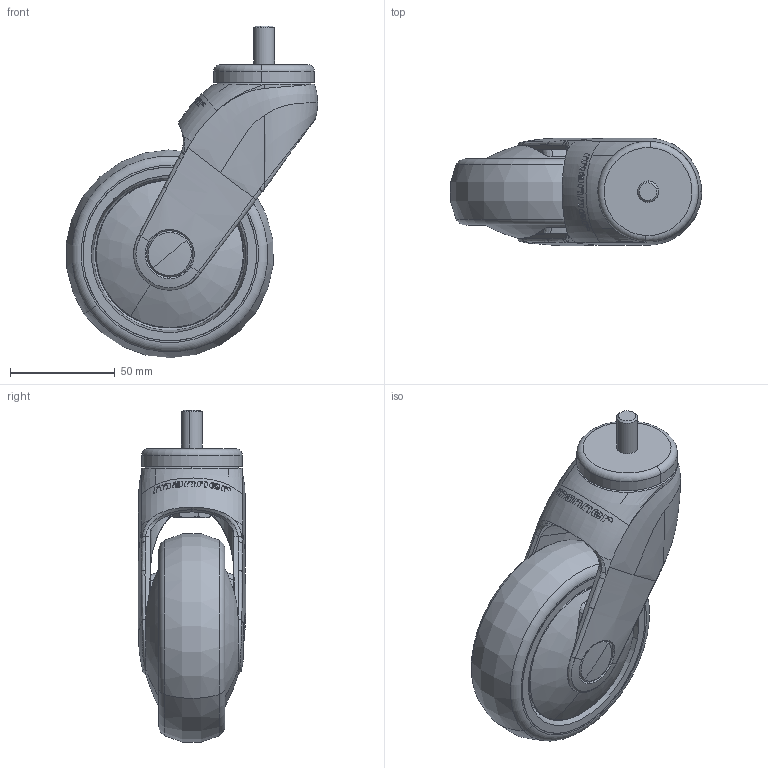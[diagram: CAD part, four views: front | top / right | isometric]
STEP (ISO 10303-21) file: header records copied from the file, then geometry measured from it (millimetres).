
FILE_DESCRIPTION (( 'STEP AP203' ), '1' );
FILE_NAME ('301749.STEP', '2010-07-15T07:18:08', ( ' ' ), ( ' ' ), 'SwSTEP 2.0', 'SolidWorks 2007', '' );
FILE_SCHEMA (( 'CONFIG_CONTROL_DESIGN' ));
Length unit declared in the file: millimetre
Products named in the file (1): 301749
Bounding box: 119.91 x 51.24 x 158.41 mm (x, y, z)
Volume: 229975.7 mm3; surface area: 121262.3 mm2
Topology: 21 solids, 21 shells, 762 faces, 2553 edges, 1839 vertices
Faces by surface type: plane 199, bspline 182, cylinder 178, cone 115, torus 68, sphere 20
Entity records: 72753 total; most frequent: CARTESIAN_POINT 53262, ORIENTED_EDGE 5004, DIRECTION 2903, EDGE_CURVE 2502, VERTEX_POINT 1815, B_SPLINE_CURVE_WITH_KNOTS 1289, AXIS2_PLACEMENT_3D 1225, EDGE_LOOP 819
